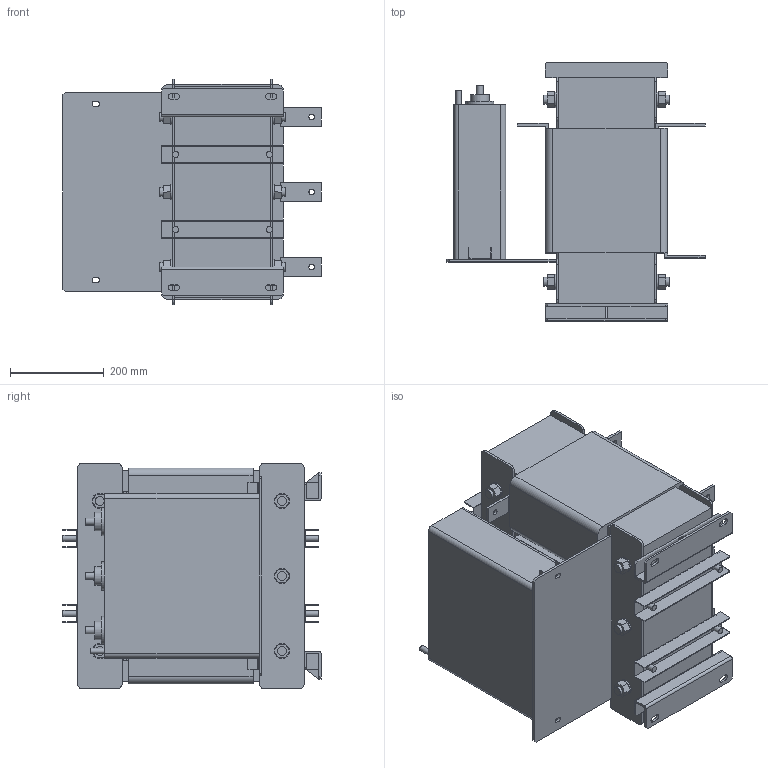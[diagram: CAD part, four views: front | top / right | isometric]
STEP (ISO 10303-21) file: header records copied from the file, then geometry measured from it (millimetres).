
FILE_DESCRIPTION(/* description */ (''),/* implementation_level */ '2;1');
FILE_NAME(/* name */ 'Sin-T6-450.stp',/* time_stamp */ '2025-02-25T11:05:46+04:00',/* author */ ('Лео'),/* organization */ (''),/* preprocessor_version */ 'ST-DEVELOPER v19.2',/* originating_system */ 'Autodesk Inventor 2024',/* authorisation */ '');
FILE_SCHEMA (('AUTOMOTIVE_DESIGN { 1 0 10303 214 3 1 1 }'));
Length unit declared in the file: millimetre
Products named in the file (1): Sin-T6-450
Bounding box: 550 x 550 x 480 mm (x, y, z)
Volume: 64261467 mm3; surface area: 2731161.9 mm2
Topology: 26 solids, 26 shells, 581 faces, 1325 edges, 827 vertices
Faces by surface type: plane 470, cylinder 111
Full cylindrical faces by diameter (mm): 12 x10, 13 x12, 15 x3, 19 x12, 32.562 x12, 40 x3, 60 x3
Entity records: 16150 total; most frequent: DIRECTION 2791, CARTESIAN_POINT 2734, ORIENTED_EDGE 2650, EDGE_CURVE 1325, LINE 1023, VECTOR 1023, AXIS2_PLACEMENT_3D 884, VERTEX_POINT 826
